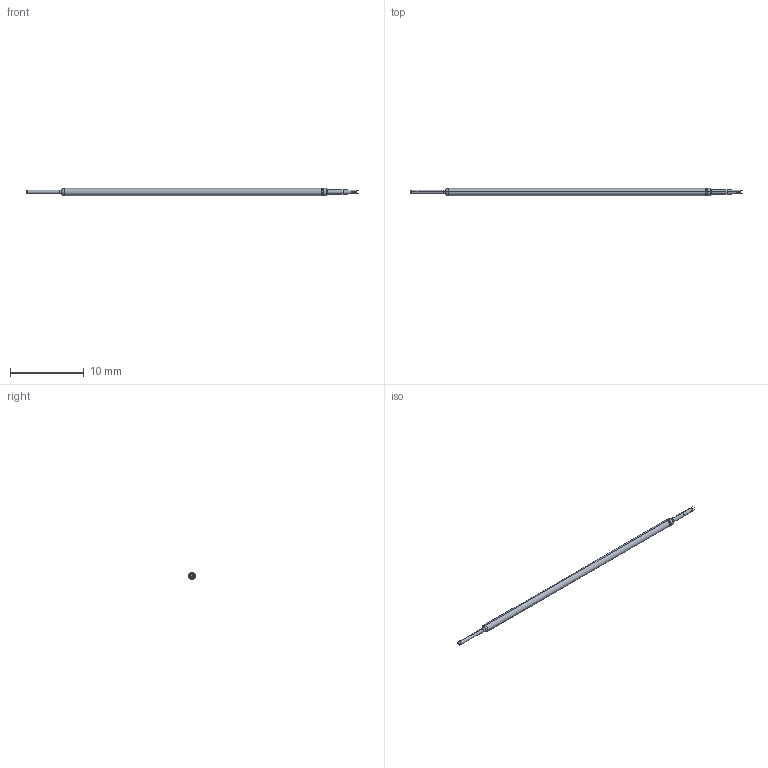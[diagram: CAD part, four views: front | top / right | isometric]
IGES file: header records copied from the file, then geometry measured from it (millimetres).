
Start section: SolidWorks IGES file using analytic representation for surfaces
Global section: file name: C:\Documents and Settings\mrumschlag\Desktop\changes\new\test\L18 RECD.IGS; native system: SolidWorks 2011; preprocessor: SolidWorks 2011; author: mrumschlag; date: 110630.142312; units: inch
Bounding box: 45.03 x 0.97 x 0.97 mm (x, y, z)
Surface area: 124.9 mm2 (no closed solid volume)
Topology: 0 solids, 0 shells, 33 faces, 186 edges, 184 vertices
Faces by surface type: bspline 17, revolution 16
